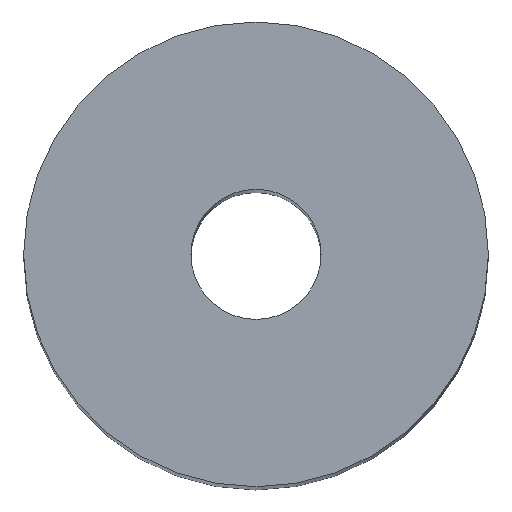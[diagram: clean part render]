
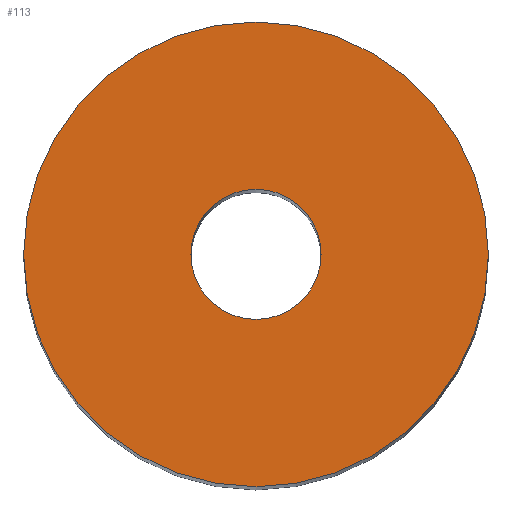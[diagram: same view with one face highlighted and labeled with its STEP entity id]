
A CAD part, top view. The second image highlights one B-rep face of the part: STEP entity #113.
In plain terms, the highlighted planar face has unit normal (0, 0, 1).
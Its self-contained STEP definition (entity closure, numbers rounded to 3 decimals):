
#113=ADVANCED_FACE('',(#121,#122),#119,.T.);
#119=PLANE('',#190);
#121=FACE_BOUND('',#125,.T.);
#122=FACE_BOUND('',#126,.T.);
#125=EDGE_LOOP('',(#133,#134));
#126=EDGE_LOOP('',(#135,#136));
#133=ORIENTED_EDGE('',*,*,#165,.T.);
#134=ORIENTED_EDGE('',*,*,#166,.T.);
#135=ORIENTED_EDGE('',*,*,#167,.F.);
#136=ORIENTED_EDGE('',*,*,#168,.F.);
#157=VERTEX_POINT('',#236);
#158=VERTEX_POINT('',#237);
#159=VERTEX_POINT('',#240);
#160=VERTEX_POINT('',#241);
#165=EDGE_CURVE('',#157,#158,#177,.T.);
#166=EDGE_CURVE('',#158,#157,#178,.T.);
#167=EDGE_CURVE('',#159,#160,#179,.T.);
#168=EDGE_CURVE('',#160,#159,#180,.T.);
#177=CIRCLE('',#186,25.);
#178=CIRCLE('',#187,25.);
#179=CIRCLE('',#188,7.);
#180=CIRCLE('',#189,7.);
#186=AXIS2_PLACEMENT_3D('',#235,#202,#203);
#187=AXIS2_PLACEMENT_3D('',#238,#204,#205);
#188=AXIS2_PLACEMENT_3D('',#239,#206,#207);
#189=AXIS2_PLACEMENT_3D('',#242,#208,#209);
#190=AXIS2_PLACEMENT_3D('',#243,#210,#211);
#202=DIRECTION('',(0.,0.,1.));
#203=DIRECTION('',(0.,1.,0.));
#204=DIRECTION('',(0.,0.,1.));
#205=DIRECTION('',(0.,-1.,0.));
#206=DIRECTION('',(0.,0.,1.));
#207=DIRECTION('',(0.,-1.,0.));
#208=DIRECTION('',(0.,0.,1.));
#209=DIRECTION('',(0.,1.,0.));
#210=DIRECTION('',(0.,0.,1.));
#211=DIRECTION('',(0.,1.,0.));
#235=CARTESIAN_POINT('',(0.,0.,200.));
#236=CARTESIAN_POINT('',(-25.,0.,200.));
#237=CARTESIAN_POINT('',(25.,0.,200.));
#238=CARTESIAN_POINT('',(0.,0.,200.));
#239=CARTESIAN_POINT('',(0.,0.,200.));
#240=CARTESIAN_POINT('',(7.,0.,200.));
#241=CARTESIAN_POINT('',(-7.,0.,200.));
#242=CARTESIAN_POINT('',(0.,0.,200.));
#243=CARTESIAN_POINT('',(0.,0.,200.));
